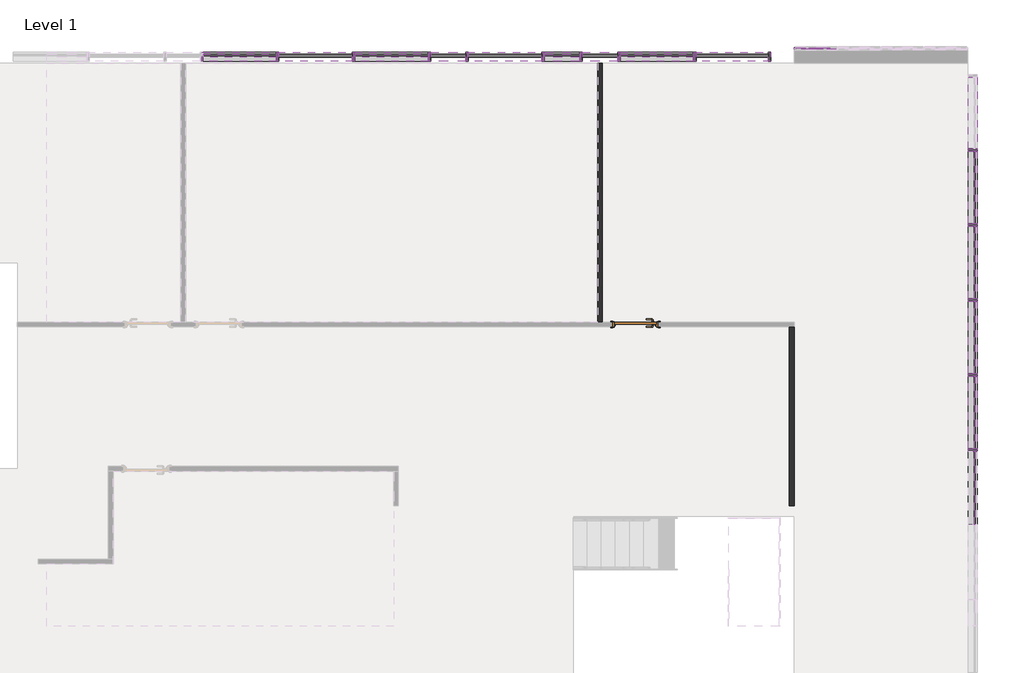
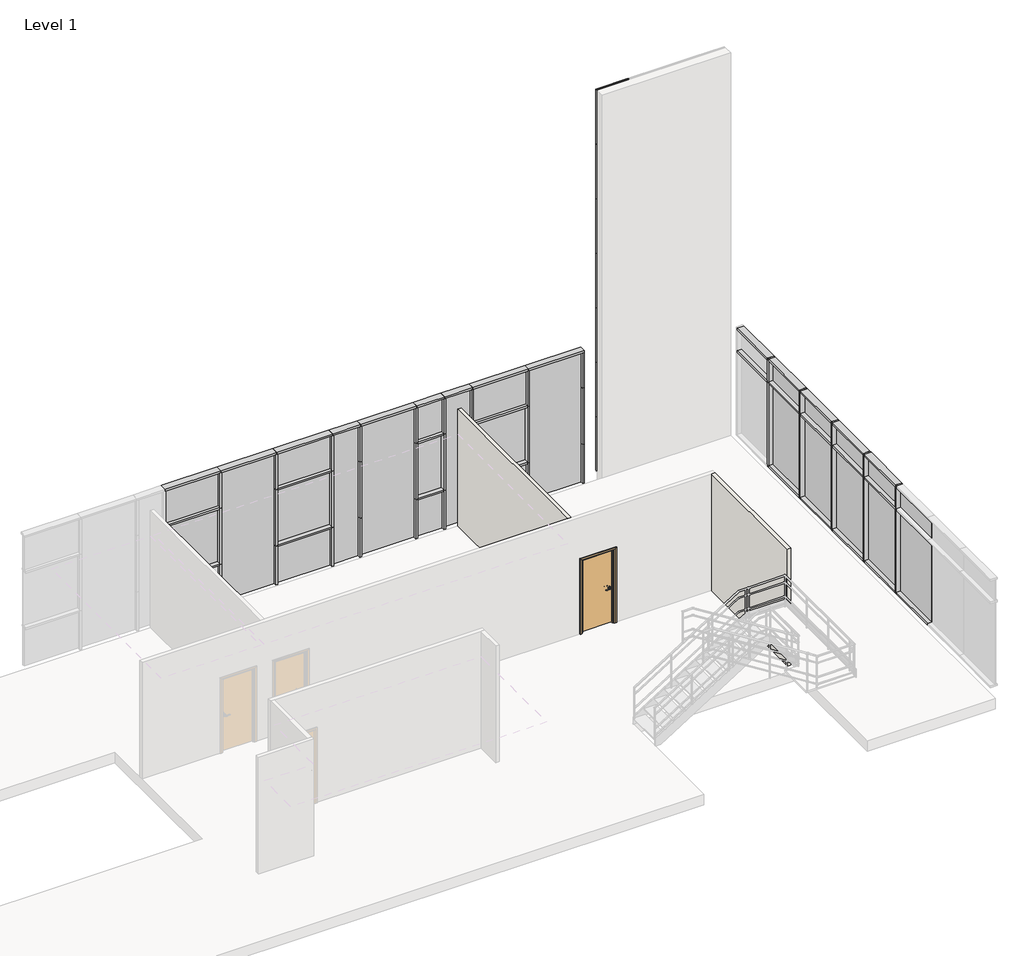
# One storey, part 6 of 10: 83 members, 26 plates, 2 walls, 1 door.
"""IFC4 building model written with IfcOpenShell, lengths in millimetres."""

from ifc_helpers import new_model, si_unit, frame, origin, place, context, project, spatial, polyline, outline, extrude, transform, mapped, element, save
from components import doors_intsgl_1_910x2110mm_ba118736, rectangular_mullion_25x25mm_154c87ff, rectangular_mullion_25x25mm_39486c0a, rectangular_mullion_25x25mm_7ca17579, rectangular_mullion_25x25mm_b3a713a3, rectangular_mullion_50x180mm_27940352, rectangular_mullion_50x180mm_f781141c, rectangular_mullion_50x180mm_fd91253e, rectangular_mullion_50x180mm_cfc9efda, rectangular_mullion_50x180mm_c30fec06, rectangular_mullion_50x180mm_55b63a96, rectangular_mullion_50x180mm_95299f7d, rectangular_mullion_50x180mm_7153291d, rectangular_mullion_50x180mm_f19e9633, rectangular_mullion_50x180mm_b6846536, rectangular_mullion_50x180mm_cd79a6a2, rectangular_mullion_50x180mm_1be9a22b, rectangular_mullion_50x180mm_9c6cddf7, rectangular_mullion_50x180mm_ee9895d7, rectangular_mullion_50x180mm_6af64579, rectangular_mullion_50x180mm_418feb2d, rectangular_mullion_50x180mm_827d9562, system_panel_black_panel_9e4711d2, system_panel_dark_grey_panel_d75652f0, system_panel_dark_grey_panel_1d6e0621, system_panel_glazed_dd63f223, system_panel_glazed_4915e1a0, system_panel_glazed_7f1c0332, system_panel_glazed_28d323ef, system_panel_glazed_53acddae, system_panel_glazed_79299351, system_panel_white_panel_6a64f577, system_panel_white_panel_a9ca731a, system_panel_white_panel_6c6c8c82, system_panel_white_panel_ff540c20

model = new_model("IFC4")

# Units and contexts
model_context = context("Model", 3, world=origin())
ifc_project = project(units=[si_unit("LENGTHUNIT", "METRE", prefix="MILLI")], contexts=[model_context])

# Site, building, storey
site = spatial("IfcSite", under=ifc_project)
building = spatial("IfcBuilding", under=site)
storey = spatial("IfcBuildingStorey", under=building, Name="Level 1", Elevation=3750.0)

# Door
placement = place(None, origin())
doors_intsgl_1_910x2110mm_shape = doors_intsgl_1_910x2110mm_ba118736(model_context)
element("IfcDoor", 1, ObjectType="Doors_IntSgl_1 : 910x2110mm", at=placement, inside=storey, context=model_context, shape_type="MappedRepresentation", body=[
    mapped(doors_intsgl_1_910x2110mm_shape, transform((36520.7942367, 3837.3025486, 3750.0), x_axis=(-1.0, 0.0, 0.0), y_axis=(0.0, -1.0, 0.0), z_axis=(0.0, 0.0, 1.0))),
])

# Members
rectangular_mullion_25x25mm_shape = rectangular_mullion_25x25mm_154c87ff(model_context)
element("IfcMember", 2, ObjectType="Rectangular Mullion : 25x25mm", at=placement, inside=storey, context=model_context, shape_type="MappedRepresentation", body=[
    mapped(rectangular_mullion_25x25mm_shape, transform((39655.7942367, 9282.4946591, 3775.0), x_axis=(-1.0, 0.0, 0.0), y_axis=(0.0, 1.0, 0.0), z_axis=(0.0, 0.0, -1.0))),
])
rectangular_mullion_25x25mm_2_shape = rectangular_mullion_25x25mm_39486c0a(model_context)
element("IfcMember", 3, ObjectType="Rectangular Mullion : 25x25mm", at=placement, inside=storey, context=model_context, shape_type="MappedRepresentation", body=[
    mapped(rectangular_mullion_25x25mm_2_shape, transform((39655.7942367, 9282.4946591, 5308.9285714), x_axis=(-1.0, 0.0, 0.0), y_axis=(0.0, 1.0, 0.0), z_axis=(0.0, 0.0, -1.0))),
])
element("IfcMember", 4, ObjectType="Rectangular Mullion : 25x25mm", at=placement, inside=storey, context=model_context, shape_type="MappedRepresentation", body=[
    mapped(rectangular_mullion_25x25mm_2_shape, transform((39655.7942367, 9282.4946591, 6855.3571429), x_axis=(-1.0, 0.0, 0.0), y_axis=(0.0, 1.0, 0.0), z_axis=(0.0, 0.0, -1.0))),
])
element("IfcMember", 5, ObjectType="Rectangular Mullion : 25x25mm", at=placement, inside=storey, context=model_context, shape_type="MappedRepresentation", body=[
    mapped(rectangular_mullion_25x25mm_2_shape, transform((39655.7942367, 9282.4946591, 8401.7857143), x_axis=(-1.0, 0.0, 0.0), y_axis=(0.0, 1.0, 0.0), z_axis=(0.0, 0.0, -1.0))),
])
element("IfcMember", 6, ObjectType="Rectangular Mullion : 25x25mm", at=placement, inside=storey, context=model_context, shape_type="MappedRepresentation", body=[
    mapped(rectangular_mullion_25x25mm_2_shape, transform((39655.7942367, 9282.4946591, 9948.2142857), x_axis=(-1.0, 0.0, 0.0), y_axis=(0.0, 1.0, 0.0), z_axis=(0.0, 0.0, -1.0))),
])
element("IfcMember", 7, ObjectType="Rectangular Mullion : 25x25mm", at=placement, inside=storey, context=model_context, shape_type="MappedRepresentation", body=[
    mapped(rectangular_mullion_25x25mm_2_shape, transform((39655.7942367, 9282.4946591, 11494.6428571), x_axis=(-1.0, 0.0, 0.0), y_axis=(0.0, 1.0, 0.0), z_axis=(0.0, 0.0, -1.0))),
])
element("IfcMember", 8, ObjectType="Rectangular Mullion : 25x25mm", at=placement, inside=storey, context=model_context, shape_type="MappedRepresentation", body=[
    mapped(rectangular_mullion_25x25mm_shape, transform((39655.7942367, 9282.4946591, 13041.0714286), x_axis=(-1.0, 0.0, 0.0), y_axis=(0.0, 1.0, 0.0), z_axis=(0.0, 0.0, -1.0))),
])
rectangular_mullion_25x25mm_3_shape = rectangular_mullion_25x25mm_7ca17579(model_context)
element("IfcMember", 9, ObjectType="Rectangular Mullion : 25x25mm", at=placement, inside=storey, context=model_context, shape_type="MappedRepresentation", body=[
    mapped(rectangular_mullion_25x25mm_3_shape, transform((39655.7942367, 9282.4946591, 14600.0), x_axis=(0.0, 0.0, 1.0), y_axis=(0.0, 1.0, 0.0), z_axis=(-1.0, 0.0, 0.0))),
])
rectangular_mullion_25x25mm_4_shape = rectangular_mullion_25x25mm_b3a713a3(model_context)
element("IfcMember", 10, ObjectType="Rectangular Mullion : 25x25mm", at=placement, inside=storey, context=model_context, shape_type="MappedRepresentation", body=[
    mapped(rectangular_mullion_25x25mm_4_shape, transform((39680.7942367, 9282.4946591, 5308.9285714), x_axis=(0.0, 0.0, 1.0), y_axis=(0.0, 1.0, 0.0), z_axis=(-1.0, 0.0, 0.0))),
])
element("IfcMember", 11, ObjectType="Rectangular Mullion : 25x25mm", at=placement, inside=storey, context=model_context, shape_type="MappedRepresentation", body=[
    mapped(rectangular_mullion_25x25mm_4_shape, transform((39680.7942367, 9282.4946591, 6855.3571429), x_axis=(0.0, 0.0, 1.0), y_axis=(0.0, 1.0, 0.0), z_axis=(-1.0, 0.0, 0.0))),
])
element("IfcMember", 12, ObjectType="Rectangular Mullion : 25x25mm", at=placement, inside=storey, context=model_context, shape_type="MappedRepresentation", body=[
    mapped(rectangular_mullion_25x25mm_4_shape, transform((39680.7942367, 9282.4946591, 8401.7857143), x_axis=(0.0, 0.0, 1.0), y_axis=(0.0, 1.0, 0.0), z_axis=(-1.0, 0.0, 0.0))),
])
element("IfcMember", 13, ObjectType="Rectangular Mullion : 25x25mm", at=placement, inside=storey, context=model_context, shape_type="MappedRepresentation", body=[
    mapped(rectangular_mullion_25x25mm_4_shape, transform((39680.7942367, 9282.4946591, 9948.2142857), x_axis=(0.0, 0.0, 1.0), y_axis=(0.0, 1.0, 0.0), z_axis=(-1.0, 0.0, 0.0))),
])
element("IfcMember", 14, ObjectType="Rectangular Mullion : 25x25mm", at=placement, inside=storey, context=model_context, shape_type="MappedRepresentation", body=[
    mapped(rectangular_mullion_25x25mm_4_shape, transform((39680.7942367, 9282.4946591, 11494.6428571), x_axis=(0.0, 0.0, 1.0), y_axis=(0.0, 1.0, 0.0), z_axis=(-1.0, 0.0, 0.0))),
])
element("IfcMember", 15, ObjectType="Rectangular Mullion : 25x25mm", at=placement, inside=storey, context=model_context, shape_type="MappedRepresentation", body=[
    mapped(rectangular_mullion_25x25mm_4_shape, transform((39680.7942367, 9282.4946591, 13041.0714286), x_axis=(0.0, 0.0, 1.0), y_axis=(0.0, 1.0, 0.0), z_axis=(-1.0, 0.0, 0.0))),
])
rectangular_mullion_50x180mm_shape = rectangular_mullion_50x180mm_27940352(model_context)
element("IfcMember", 16, ObjectType="Rectangular Mullion : 50x180mm", at=placement, inside=storey, context=model_context, shape_type="MappedRepresentation", body=[
    mapped(rectangular_mullion_50x180mm_shape, transform((37693.2942367, 9132.4946591, 3750.0), x_axis=(1.0, 0.0, 0.0), y_axis=(0.0, -1.0, 0.0), z_axis=(0.0, 0.0, -1.0))),
])
element("IfcMember", 17, ObjectType="Rectangular Mullion : 50x180mm", at=placement, inside=storey, context=model_context, shape_type="MappedRepresentation", body=[
    mapped(rectangular_mullion_50x180mm_shape, transform((36193.2942367, 9132.4946591, 3750.0), x_axis=(1.0, 0.0, 0.0), y_axis=(0.0, -1.0, 0.0), z_axis=(0.0, 0.0, -1.0))),
])
element("IfcMember", 18, ObjectType="Rectangular Mullion : 50x180mm", at=placement, inside=storey, context=model_context, shape_type="MappedRepresentation", body=[
    mapped(rectangular_mullion_50x180mm_shape, transform((35443.2942367, 9132.4946591, 3750.0), x_axis=(1.0, 0.0, 0.0), y_axis=(0.0, -1.0, 0.0), z_axis=(0.0, 0.0, -1.0))),
])
element("IfcMember", 19, ObjectType="Rectangular Mullion : 50x180mm", at=placement, inside=storey, context=model_context, shape_type="MappedRepresentation", body=[
    mapped(rectangular_mullion_50x180mm_shape, transform((34693.2942367, 9132.4946591, 3750.0), x_axis=(1.0, 0.0, 0.0), y_axis=(0.0, -1.0, 0.0), z_axis=(0.0, 0.0, -1.0))),
])
element("IfcMember", 20, ObjectType="Rectangular Mullion : 50x180mm", at=placement, inside=storey, context=model_context, shape_type="MappedRepresentation", body=[
    mapped(rectangular_mullion_50x180mm_shape, transform((32443.2942367, 9132.4946591, 3750.0), x_axis=(1.0, 0.0, 0.0), y_axis=(0.0, -1.0, 0.0), z_axis=(0.0, 0.0, -1.0))),
])
element("IfcMember", 21, ObjectType="Rectangular Mullion : 50x180mm", at=placement, inside=storey, context=model_context, shape_type="MappedRepresentation", body=[
    mapped(rectangular_mullion_50x180mm_shape, transform((30943.2942367, 9132.4946591, 3750.0), x_axis=(1.0, 0.0, 0.0), y_axis=(0.0, -1.0, 0.0), z_axis=(0.0, 0.0, -1.0))),
])
element("IfcMember", 22, ObjectType="Rectangular Mullion : 50x180mm", at=placement, inside=storey, context=model_context, shape_type="MappedRepresentation", body=[
    mapped(rectangular_mullion_50x180mm_shape, transform((29443.2942367, 9132.4946591, 3750.0), x_axis=(1.0, 0.0, 0.0), y_axis=(0.0, -1.0, 0.0), z_axis=(0.0, 0.0, -1.0))),
])
element("IfcMember", 23, ObjectType="Rectangular Mullion : 50x180mm", at=placement, inside=storey, context=model_context, shape_type="MappedRepresentation", body=[
    mapped(rectangular_mullion_50x180mm_shape, transform((33193.2942367, 9132.4946591, 3750.0), x_axis=(1.0, 0.0, 0.0), y_axis=(0.0, -1.0, 0.0), z_axis=(0.0, 0.0, -1.0))),
])
rectangular_mullion_50x180mm_2_shape = rectangular_mullion_50x180mm_f781141c(model_context)
element("IfcMember", 24, ObjectType="Rectangular Mullion : 50x180mm", at=placement, inside=storey, context=model_context, shape_type="MappedRepresentation", body=[
    mapped(rectangular_mullion_50x180mm_2_shape, transform((29443.2942367, 9132.4946591, 4850.0), x_axis=(1.0, 0.0, 0.0), y_axis=(0.0, -1.0, 0.0), z_axis=(0.0, 0.0, -1.0))),
])
element("IfcMember", 25, ObjectType="Rectangular Mullion : 50x180mm", at=placement, inside=storey, context=model_context, shape_type="MappedRepresentation", body=[
    mapped(rectangular_mullion_50x180mm_2_shape, transform((30943.2942367, 9132.4946591, 4850.0), x_axis=(1.0, 0.0, 0.0), y_axis=(0.0, -1.0, 0.0), z_axis=(0.0, 0.0, -1.0))),
])
element("IfcMember", 26, ObjectType="Rectangular Mullion : 50x180mm", at=placement, inside=storey, context=model_context, shape_type="MappedRepresentation", body=[
    mapped(rectangular_mullion_50x180mm_2_shape, transform((32443.2942367, 9132.4946591, 4850.0), x_axis=(1.0, 0.0, 0.0), y_axis=(0.0, -1.0, 0.0), z_axis=(0.0, 0.0, -1.0))),
])
element("IfcMember", 27, ObjectType="Rectangular Mullion : 50x180mm", at=placement, inside=storey, context=model_context, shape_type="MappedRepresentation", body=[
    mapped(rectangular_mullion_50x180mm_2_shape, transform((34693.2942367, 9132.4946591, 4850.0), x_axis=(1.0, 0.0, 0.0), y_axis=(0.0, -1.0, 0.0), z_axis=(0.0, 0.0, -1.0))),
])
element("IfcMember", 28, ObjectType="Rectangular Mullion : 50x180mm", at=placement, inside=storey, context=model_context, shape_type="MappedRepresentation", body=[
    mapped(rectangular_mullion_50x180mm_2_shape, transform((35443.2942367, 9132.4946591, 4850.0), x_axis=(1.0, 0.0, 0.0), y_axis=(0.0, -1.0, 0.0), z_axis=(0.0, 0.0, -1.0))),
])
element("IfcMember", 29, ObjectType="Rectangular Mullion : 50x180mm", at=placement, inside=storey, context=model_context, shape_type="MappedRepresentation", body=[
    mapped(rectangular_mullion_50x180mm_2_shape, transform((36193.2942367, 9132.4946591, 4850.0), x_axis=(1.0, 0.0, 0.0), y_axis=(0.0, -1.0, 0.0), z_axis=(0.0, 0.0, -1.0))),
])
element("IfcMember", 30, ObjectType="Rectangular Mullion : 50x180mm", at=placement, inside=storey, context=model_context, shape_type="MappedRepresentation", body=[
    mapped(rectangular_mullion_50x180mm_2_shape, transform((37693.2942367, 9132.4946591, 4850.0), x_axis=(1.0, 0.0, 0.0), y_axis=(0.0, -1.0, 0.0), z_axis=(0.0, 0.0, -1.0))),
])
element("IfcMember", 31, ObjectType="Rectangular Mullion : 50x180mm", at=placement, inside=storey, context=model_context, shape_type="MappedRepresentation", body=[
    mapped(rectangular_mullion_50x180mm_2_shape, transform((33193.2942367, 9132.4946591, 4850.0), x_axis=(1.0, 0.0, 0.0), y_axis=(0.0, -1.0, 0.0), z_axis=(0.0, 0.0, -1.0))),
])
rectangular_mullion_50x180mm_3_shape = rectangular_mullion_50x180mm_fd91253e(model_context)
element("IfcMember", 32, ObjectType="Rectangular Mullion : 50x180mm", at=placement, inside=storey, context=model_context, shape_type="MappedRepresentation", body=[
    mapped(rectangular_mullion_50x180mm_3_shape, transform((37668.2942367, 9132.4946591, 4850.0), x_axis=(0.0, 0.0, 1.0), y_axis=(0.0, -1.0, 0.0), z_axis=(1.0, 0.0, 0.0))),
])
element("IfcMember", 33, ObjectType="Rectangular Mullion : 50x180mm", at=placement, inside=storey, context=model_context, shape_type="MappedRepresentation", body=[
    mapped(rectangular_mullion_50x180mm_3_shape, transform((37668.2942367, 9132.4946591, 6450.0), x_axis=(0.0, 0.0, 1.0), y_axis=(0.0, -1.0, 0.0), z_axis=(1.0, 0.0, 0.0))),
])
element("IfcMember", 34, ObjectType="Rectangular Mullion : 50x180mm", at=placement, inside=storey, context=model_context, shape_type="MappedRepresentation", body=[
    mapped(rectangular_mullion_50x180mm_3_shape, transform((29418.2942367, 9132.4946591, 4850.0), x_axis=(0.0, 0.0, 1.0), y_axis=(0.0, -1.0, 0.0), z_axis=(1.0, 0.0, 0.0))),
])
element("IfcMember", 35, ObjectType="Rectangular Mullion : 50x180mm", at=placement, inside=storey, context=model_context, shape_type="MappedRepresentation", body=[
    mapped(rectangular_mullion_50x180mm_3_shape, transform((32418.2942367, 9132.4946591, 4850.0), x_axis=(0.0, 0.0, 1.0), y_axis=(0.0, -1.0, 0.0), z_axis=(1.0, 0.0, 0.0))),
])
element("IfcMember", 36, ObjectType="Rectangular Mullion : 50x180mm", at=placement, inside=storey, context=model_context, shape_type="MappedRepresentation", body=[
    mapped(rectangular_mullion_50x180mm_3_shape, transform((29418.2942367, 9132.4946591, 6450.0), x_axis=(0.0, 0.0, 1.0), y_axis=(0.0, -1.0, 0.0), z_axis=(1.0, 0.0, 0.0))),
])
element("IfcMember", 37, ObjectType="Rectangular Mullion : 50x180mm", at=placement, inside=storey, context=model_context, shape_type="MappedRepresentation", body=[
    mapped(rectangular_mullion_50x180mm_3_shape, transform((32418.2942367, 9132.4946591, 6450.0), x_axis=(0.0, 0.0, 1.0), y_axis=(0.0, -1.0, 0.0), z_axis=(1.0, 0.0, 0.0))),
])
rectangular_mullion_50x180mm_4_shape = rectangular_mullion_50x180mm_cfc9efda(model_context)
element("IfcMember", 38, ObjectType="Rectangular Mullion : 50x180mm", at=placement, inside=storey, context=model_context, shape_type="MappedRepresentation", body=[
    mapped(rectangular_mullion_50x180mm_4_shape, transform((35418.2942367, 9132.4946591, 6450.0), x_axis=(0.0, 0.0, 1.0), y_axis=(0.0, -1.0, 0.0), z_axis=(1.0, 0.0, 0.0))),
])
element("IfcMember", 39, ObjectType="Rectangular Mullion : 50x180mm", at=placement, inside=storey, context=model_context, shape_type="MappedRepresentation", body=[
    mapped(rectangular_mullion_50x180mm_4_shape, transform((35418.2942367, 9132.4946591, 4850.0), x_axis=(0.0, 0.0, 1.0), y_axis=(0.0, -1.0, 0.0), z_axis=(1.0, 0.0, 0.0))),
])
rectangular_mullion_50x180mm_5_shape = rectangular_mullion_50x180mm_c30fec06(model_context)
element("IfcMember", 40, ObjectType="Rectangular Mullion : 50x180mm", at=placement, inside=storey, context=model_context, shape_type="MappedRepresentation", body=[
    mapped(rectangular_mullion_50x180mm_5_shape, transform((29443.2942367, 9132.4946591, 7500.0), x_axis=(0.0, 0.0, 1.0), y_axis=(0.0, -1.0, 0.0), z_axis=(1.0, 0.0, 0.0))),
])
element("IfcMember", 41, ObjectType="Rectangular Mullion : 50x180mm", at=placement, inside=storey, context=model_context, shape_type="MappedRepresentation", body=[
    mapped(rectangular_mullion_50x180mm_5_shape, transform((30943.2942367, 9132.4946591, 7500.0), x_axis=(0.0, 0.0, 1.0), y_axis=(0.0, -1.0, 0.0), z_axis=(1.0, 0.0, 0.0))),
])
element("IfcMember", 42, ObjectType="Rectangular Mullion : 50x180mm", at=placement, inside=storey, context=model_context, shape_type="MappedRepresentation", body=[
    mapped(rectangular_mullion_50x180mm_5_shape, transform((32443.2942367, 9132.4946591, 7500.0), x_axis=(0.0, 0.0, 1.0), y_axis=(0.0, -1.0, 0.0), z_axis=(1.0, 0.0, 0.0))),
])
element("IfcMember", 43, ObjectType="Rectangular Mullion : 50x180mm", at=placement, inside=storey, context=model_context, shape_type="MappedRepresentation", body=[
    mapped(rectangular_mullion_50x180mm_5_shape, transform((34693.2942367, 9132.4946591, 7500.0), x_axis=(0.0, 0.0, 1.0), y_axis=(0.0, -1.0, 0.0), z_axis=(1.0, 0.0, 0.0))),
])
element("IfcMember", 44, ObjectType="Rectangular Mullion : 50x180mm", at=placement, inside=storey, context=model_context, shape_type="MappedRepresentation", body=[
    mapped(rectangular_mullion_50x180mm_5_shape, transform((37693.2942367, 9132.4946591, 7500.0), x_axis=(0.0, 0.0, 1.0), y_axis=(0.0, -1.0, 0.0), z_axis=(1.0, 0.0, 0.0))),
])
rectangular_mullion_50x180mm_6_shape = rectangular_mullion_50x180mm_55b63a96(model_context)
element("IfcMember", 45, ObjectType="Rectangular Mullion : 50x180mm", at=placement, inside=storey, context=model_context, shape_type="MappedRepresentation", body=[
    mapped(rectangular_mullion_50x180mm_6_shape, transform((33193.2942367, 9132.4946591, 7500.0), x_axis=(0.0, 0.0, 1.0), y_axis=(0.0, -1.0, 0.0), z_axis=(1.0, 0.0, 0.0))),
])
element("IfcMember", 46, ObjectType="Rectangular Mullion : 50x180mm", at=placement, inside=storey, context=model_context, shape_type="MappedRepresentation", body=[
    mapped(rectangular_mullion_50x180mm_6_shape, transform((35443.2942367, 9132.4946591, 7500.0), x_axis=(0.0, 0.0, 1.0), y_axis=(0.0, -1.0, 0.0), z_axis=(1.0, 0.0, 0.0))),
])
element("IfcMember", 47, ObjectType="Rectangular Mullion : 50x180mm", at=placement, inside=storey, context=model_context, shape_type="MappedRepresentation", body=[
    mapped(rectangular_mullion_50x180mm_6_shape, transform((36193.2942367, 9132.4946591, 7500.0), x_axis=(0.0, 0.0, 1.0), y_axis=(0.0, -1.0, 0.0), z_axis=(1.0, 0.0, 0.0))),
])
element("IfcMember", 48, ObjectType="Rectangular Mullion : 50x180mm", at=placement, inside=storey, context=model_context, shape_type="MappedRepresentation", body=[
    mapped(rectangular_mullion_50x180mm_5_shape, transform((39193.2942367, 9132.4946591, 7500.0), x_axis=(0.0, 0.0, 1.0), y_axis=(0.0, -1.0, 0.0), z_axis=(1.0, 0.0, 0.0))),
])
rectangular_mullion_50x180mm_7_shape = rectangular_mullion_50x180mm_95299f7d(model_context)
element("IfcMember", 49, ObjectType="Rectangular Mullion : 50x180mm", at=placement, inside=storey, context=model_context, shape_type="MappedRepresentation", body=[
    mapped(rectangular_mullion_50x180mm_7_shape, transform((39193.2942367, 9132.4946591, 4850.0), x_axis=(1.0, 0.0, 0.0), y_axis=(0.0, -1.0, 0.0), z_axis=(0.0, 0.0, -1.0))),
])
rectangular_mullion_50x180mm_8_shape = rectangular_mullion_50x180mm_7153291d(model_context)
element("IfcMember", 50, ObjectType="Rectangular Mullion : 50x180mm", at=placement, inside=storey, context=model_context, shape_type="MappedRepresentation", body=[
    mapped(rectangular_mullion_50x180mm_8_shape, transform((39193.2942367, 9132.4946591, 3750.0), x_axis=(1.0, 0.0, 0.0), y_axis=(0.0, -1.0, 0.0), z_axis=(0.0, 0.0, -1.0))),
])
rectangular_mullion_50x180mm_9_shape = rectangular_mullion_50x180mm_f19e9633(model_context)
element("IfcMember", 51, ObjectType="Rectangular Mullion : 50x180mm", at=placement, inside=storey, context=model_context, shape_type="MappedRepresentation", body=[
    mapped(rectangular_mullion_50x180mm_9_shape, transform((34693.2942367, 9132.4946591, 6450.0), x_axis=(1.0, 0.0, 0.0), y_axis=(0.0, -1.0, 0.0), z_axis=(0.0, 0.0, -1.0))),
])
element("IfcMember", 52, ObjectType="Rectangular Mullion : 50x180mm", at=placement, inside=storey, context=model_context, shape_type="MappedRepresentation", body=[
    mapped(rectangular_mullion_50x180mm_9_shape, transform((35443.2942367, 9132.4946591, 6450.0), x_axis=(1.0, 0.0, 0.0), y_axis=(0.0, -1.0, 0.0), z_axis=(0.0, 0.0, -1.0))),
])
element("IfcMember", 53, ObjectType="Rectangular Mullion : 50x180mm", at=placement, inside=storey, context=model_context, shape_type="MappedRepresentation", body=[
    mapped(rectangular_mullion_50x180mm_9_shape, transform((36193.2942367, 9132.4946591, 6450.0), x_axis=(1.0, 0.0, 0.0), y_axis=(0.0, -1.0, 0.0), z_axis=(0.0, 0.0, -1.0))),
])
element("IfcMember", 54, ObjectType="Rectangular Mullion : 50x180mm", at=placement, inside=storey, context=model_context, shape_type="MappedRepresentation", body=[
    mapped(rectangular_mullion_50x180mm_9_shape, transform((37693.2942367, 9132.4946591, 6450.0), x_axis=(1.0, 0.0, 0.0), y_axis=(0.0, -1.0, 0.0), z_axis=(0.0, 0.0, -1.0))),
])
element("IfcMember", 55, ObjectType="Rectangular Mullion : 50x180mm", at=placement, inside=storey, context=model_context, shape_type="MappedRepresentation", body=[
    mapped(rectangular_mullion_50x180mm_9_shape, transform((32443.2942367, 9132.4946591, 6450.0), x_axis=(1.0, 0.0, 0.0), y_axis=(0.0, -1.0, 0.0), z_axis=(0.0, 0.0, -1.0))),
])
element("IfcMember", 56, ObjectType="Rectangular Mullion : 50x180mm", at=placement, inside=storey, context=model_context, shape_type="MappedRepresentation", body=[
    mapped(rectangular_mullion_50x180mm_9_shape, transform((30943.2942367, 9132.4946591, 6450.0), x_axis=(1.0, 0.0, 0.0), y_axis=(0.0, -1.0, 0.0), z_axis=(0.0, 0.0, -1.0))),
])
element("IfcMember", 57, ObjectType="Rectangular Mullion : 50x180mm", at=placement, inside=storey, context=model_context, shape_type="MappedRepresentation", body=[
    mapped(rectangular_mullion_50x180mm_9_shape, transform((29443.2942367, 9132.4946591, 6450.0), x_axis=(1.0, 0.0, 0.0), y_axis=(0.0, -1.0, 0.0), z_axis=(0.0, 0.0, -1.0))),
])
element("IfcMember", 58, ObjectType="Rectangular Mullion : 50x180mm", at=placement, inside=storey, context=model_context, shape_type="MappedRepresentation", body=[
    mapped(rectangular_mullion_50x180mm_9_shape, transform((33193.2942367, 9132.4946591, 6450.0), x_axis=(1.0, 0.0, 0.0), y_axis=(0.0, -1.0, 0.0), z_axis=(0.0, 0.0, -1.0))),
])
rectangular_mullion_50x180mm_10_shape = rectangular_mullion_50x180mm_b6846536(model_context)
element("IfcMember", 59, ObjectType="Rectangular Mullion : 50x180mm", at=placement, inside=storey, context=model_context, shape_type="MappedRepresentation", body=[
    mapped(rectangular_mullion_50x180mm_10_shape, transform((39193.2942367, 9132.4946591, 6450.0), x_axis=(1.0, 0.0, 0.0), y_axis=(0.0, -1.0, 0.0), z_axis=(0.0, 0.0, -1.0))),
])
rectangular_mullion_50x180mm_11_shape = rectangular_mullion_50x180mm_cd79a6a2(model_context)
element("IfcMember", 60, ObjectType="Rectangular Mullion : 50x180mm", at=placement, inside=storey, context=model_context, shape_type="MappedRepresentation", body=[
    mapped(rectangular_mullion_50x180mm_11_shape, transform((43193.2942367, 7289.6821589, 3900.0), x_axis=(0.0, -1.0, 0.0), y_axis=(-1.0, 0.0, 0.0), z_axis=(0.0, 0.0, -1.0))),
])
element("IfcMember", 61, ObjectType="Rectangular Mullion : 50x180mm", at=placement, inside=storey, context=model_context, shape_type="MappedRepresentation", body=[
    mapped(rectangular_mullion_50x180mm_11_shape, transform((43193.2942367, 5806.869659, 3900.0), x_axis=(0.0, -1.0, 0.0), y_axis=(-1.0, 0.0, 0.0), z_axis=(0.0, 0.0, -1.0))),
])
element("IfcMember", 62, ObjectType="Rectangular Mullion : 50x180mm", at=placement, inside=storey, context=model_context, shape_type="MappedRepresentation", body=[
    mapped(rectangular_mullion_50x180mm_11_shape, transform((43193.2942367, 4324.0571591, 3900.0), x_axis=(0.0, -1.0, 0.0), y_axis=(-1.0, 0.0, 0.0), z_axis=(0.0, 0.0, -1.0))),
])
element("IfcMember", 63, ObjectType="Rectangular Mullion : 50x180mm", at=placement, inside=storey, context=model_context, shape_type="MappedRepresentation", body=[
    mapped(rectangular_mullion_50x180mm_11_shape, transform((43193.2942367, 2841.2446591, 3900.0), x_axis=(0.0, -1.0, 0.0), y_axis=(-1.0, 0.0, 0.0), z_axis=(0.0, 0.0, -1.0))),
])
element("IfcMember", 64, ObjectType="Rectangular Mullion : 50x180mm", at=placement, inside=storey, context=model_context, shape_type="MappedRepresentation", body=[
    mapped(rectangular_mullion_50x180mm_11_shape, transform((43193.2942367, 1358.4321592, 3900.0), x_axis=(0.0, -1.0, 0.0), y_axis=(-1.0, 0.0, 0.0), z_axis=(0.0, 0.0, -1.0))),
])
rectangular_mullion_50x180mm_12_shape = rectangular_mullion_50x180mm_1be9a22b(model_context)
element("IfcMember", 65, ObjectType="Rectangular Mullion : 50x180mm", at=placement, inside=storey, context=model_context, shape_type="MappedRepresentation", body=[
    mapped(rectangular_mullion_50x180mm_12_shape, transform((43193.2942367, 7314.6821589, 6965.0), x_axis=(0.0, 0.0, 1.0), y_axis=(-1.0, 0.0, 0.0), z_axis=(0.0, -1.0, 0.0))),
])
rectangular_mullion_50x180mm_13_shape = rectangular_mullion_50x180mm_9c6cddf7(model_context)
element("IfcMember", 66, ObjectType="Rectangular Mullion : 50x180mm", at=placement, inside=storey, context=model_context, shape_type="MappedRepresentation", body=[
    mapped(rectangular_mullion_50x180mm_13_shape, transform((43193.2942367, 5831.869659, 6965.0), x_axis=(0.0, 0.0, 1.0), y_axis=(-1.0, 0.0, 0.0), z_axis=(0.0, -1.0, 0.0))),
])
element("IfcMember", 67, ObjectType="Rectangular Mullion : 50x180mm", at=placement, inside=storey, context=model_context, shape_type="MappedRepresentation", body=[
    mapped(rectangular_mullion_50x180mm_13_shape, transform((43193.2942367, 4349.0571591, 6965.0), x_axis=(0.0, 0.0, 1.0), y_axis=(-1.0, 0.0, 0.0), z_axis=(0.0, -1.0, 0.0))),
])
element("IfcMember", 68, ObjectType="Rectangular Mullion : 50x180mm", at=placement, inside=storey, context=model_context, shape_type="MappedRepresentation", body=[
    mapped(rectangular_mullion_50x180mm_13_shape, transform((43193.2942367, 2866.2446591, 6965.0), x_axis=(0.0, 0.0, 1.0), y_axis=(-1.0, 0.0, 0.0), z_axis=(0.0, -1.0, 0.0))),
])
element("IfcMember", 69, ObjectType="Rectangular Mullion : 50x180mm", at=placement, inside=storey, context=model_context, shape_type="MappedRepresentation", body=[
    mapped(rectangular_mullion_50x180mm_13_shape, transform((43193.2942367, 1383.4321592, 6965.0), x_axis=(0.0, 0.0, 1.0), y_axis=(-1.0, 0.0, 0.0), z_axis=(0.0, -1.0, 0.0))),
])
element("IfcMember", 70, ObjectType="Rectangular Mullion : 50x180mm", at=placement, inside=storey, context=model_context, shape_type="MappedRepresentation", body=[
    mapped(rectangular_mullion_50x180mm_13_shape, transform((43193.2942367, 7264.6821589, 3900.0), x_axis=(0.0, 0.0, -1.0), y_axis=(-1.0, 0.0, 0.0), z_axis=(0.0, 1.0, 0.0))),
])
element("IfcMember", 71, ObjectType="Rectangular Mullion : 50x180mm", at=placement, inside=storey, context=model_context, shape_type="MappedRepresentation", body=[
    mapped(rectangular_mullion_50x180mm_13_shape, transform((43193.2942367, 5781.869659, 3900.0), x_axis=(0.0, 0.0, -1.0), y_axis=(-1.0, 0.0, 0.0), z_axis=(0.0, 1.0, 0.0))),
])
element("IfcMember", 72, ObjectType="Rectangular Mullion : 50x180mm", at=placement, inside=storey, context=model_context, shape_type="MappedRepresentation", body=[
    mapped(rectangular_mullion_50x180mm_13_shape, transform((43193.2942367, 4299.0571591, 3900.0), x_axis=(0.0, 0.0, -1.0), y_axis=(-1.0, 0.0, 0.0), z_axis=(0.0, 1.0, 0.0))),
])
element("IfcMember", 73, ObjectType="Rectangular Mullion : 50x180mm", at=placement, inside=storey, context=model_context, shape_type="MappedRepresentation", body=[
    mapped(rectangular_mullion_50x180mm_13_shape, transform((43193.2942367, 2816.2446591, 3900.0), x_axis=(0.0, 0.0, -1.0), y_axis=(-1.0, 0.0, 0.0), z_axis=(0.0, 1.0, 0.0))),
])
rectangular_mullion_50x180mm_14_shape = rectangular_mullion_50x180mm_ee9895d7(model_context)
element("IfcMember", 74, ObjectType="Rectangular Mullion : 50x180mm", at=placement, inside=storey, context=model_context, shape_type="MappedRepresentation", body=[
    mapped(rectangular_mullion_50x180mm_14_shape, transform((43193.2942367, 1333.4321592, 3900.0), x_axis=(0.0, 0.0, -1.0), y_axis=(-1.0, 0.0, 0.0), z_axis=(0.0, 1.0, 0.0))),
])
rectangular_mullion_50x180mm_15_shape = rectangular_mullion_50x180mm_6af64579(model_context)
element("IfcMember", 75, ObjectType="Rectangular Mullion : 50x180mm", at=placement, inside=storey, context=model_context, shape_type="MappedRepresentation", body=[
    mapped(rectangular_mullion_50x180mm_15_shape, transform((43193.2942367, 7314.6821589, 6300.0), x_axis=(0.0, 0.0, 1.0), y_axis=(-1.0, 0.0, 0.0), z_axis=(0.0, -1.0, 0.0))),
])
rectangular_mullion_50x180mm_16_shape = rectangular_mullion_50x180mm_418feb2d(model_context)
element("IfcMember", 76, ObjectType="Rectangular Mullion : 50x180mm", at=placement, inside=storey, context=model_context, shape_type="MappedRepresentation", body=[
    mapped(rectangular_mullion_50x180mm_16_shape, transform((43193.2942367, 5831.869659, 6300.0), x_axis=(0.0, 0.0, 1.0), y_axis=(-1.0, 0.0, 0.0), z_axis=(0.0, -1.0, 0.0))),
])
element("IfcMember", 77, ObjectType="Rectangular Mullion : 50x180mm", at=placement, inside=storey, context=model_context, shape_type="MappedRepresentation", body=[
    mapped(rectangular_mullion_50x180mm_16_shape, transform((43193.2942367, 4349.0571591, 6300.0), x_axis=(0.0, 0.0, 1.0), y_axis=(-1.0, 0.0, 0.0), z_axis=(0.0, -1.0, 0.0))),
])
element("IfcMember", 78, ObjectType="Rectangular Mullion : 50x180mm", at=placement, inside=storey, context=model_context, shape_type="MappedRepresentation", body=[
    mapped(rectangular_mullion_50x180mm_16_shape, transform((43193.2942367, 2866.2446591, 6300.0), x_axis=(0.0, 0.0, 1.0), y_axis=(-1.0, 0.0, 0.0), z_axis=(0.0, -1.0, 0.0))),
])
element("IfcMember", 79, ObjectType="Rectangular Mullion : 50x180mm", at=placement, inside=storey, context=model_context, shape_type="MappedRepresentation", body=[
    mapped(rectangular_mullion_50x180mm_16_shape, transform((43193.2942367, 1383.4321592, 6300.0), x_axis=(0.0, 0.0, 1.0), y_axis=(-1.0, 0.0, 0.0), z_axis=(0.0, -1.0, 0.0))),
])
rectangular_mullion_50x180mm_17_shape = rectangular_mullion_50x180mm_827d9562(model_context)
element("IfcMember", 80, ObjectType="Rectangular Mullion : 50x180mm", at=placement, inside=storey, context=model_context, shape_type="MappedRepresentation", body=[
    mapped(rectangular_mullion_50x180mm_17_shape, transform((43193.2942367, 7289.6821589, 6300.0), x_axis=(0.0, -1.0, 0.0), y_axis=(-1.0, 0.0, 0.0), z_axis=(0.0, 0.0, -1.0))),
])
element("IfcMember", 81, ObjectType="Rectangular Mullion : 50x180mm", at=placement, inside=storey, context=model_context, shape_type="MappedRepresentation", body=[
    mapped(rectangular_mullion_50x180mm_17_shape, transform((43193.2942367, 5806.869659, 6300.0), x_axis=(0.0, -1.0, 0.0), y_axis=(-1.0, 0.0, 0.0), z_axis=(0.0, 0.0, -1.0))),
])
element("IfcMember", 82, ObjectType="Rectangular Mullion : 50x180mm", at=placement, inside=storey, context=model_context, shape_type="MappedRepresentation", body=[
    mapped(rectangular_mullion_50x180mm_17_shape, transform((43193.2942367, 4324.0571591, 6300.0), x_axis=(0.0, -1.0, 0.0), y_axis=(-1.0, 0.0, 0.0), z_axis=(0.0, 0.0, -1.0))),
])
element("IfcMember", 83, ObjectType="Rectangular Mullion : 50x180mm", at=placement, inside=storey, context=model_context, shape_type="MappedRepresentation", body=[
    mapped(rectangular_mullion_50x180mm_17_shape, transform((43193.2942367, 2841.2446591, 6300.0), x_axis=(0.0, -1.0, 0.0), y_axis=(-1.0, 0.0, 0.0), z_axis=(0.0, 0.0, -1.0))),
])
element("IfcMember", 84, ObjectType="Rectangular Mullion : 50x180mm", at=placement, inside=storey, context=model_context, shape_type="MappedRepresentation", body=[
    mapped(rectangular_mullion_50x180mm_17_shape, transform((43193.2942367, 1358.4321592, 6300.0), x_axis=(0.0, -1.0, 0.0), y_axis=(-1.0, 0.0, 0.0), z_axis=(0.0, 0.0, -1.0))),
])

# Plates
system_panel_black_panel_shape = system_panel_black_panel_9e4711d2(model_context)
element("IfcPlate", 85, ObjectType="System Panel : Black-Panel", at=placement, inside=storey, context=model_context, shape_type="MappedRepresentation", body=[
    mapped(system_panel_black_panel_shape, transform((35818.2942367, 9132.4946591, 3750.0), x_axis=(1.0, 0.0, 0.0), y_axis=(0.0, 1.0, 0.0), z_axis=(0.0, 0.0, 1.0))),
])
element("IfcPlate", 86, ObjectType="System Panel : Black-Panel", at=placement, inside=storey, context=model_context, shape_type="MappedRepresentation", body=[
    mapped(system_panel_black_panel_shape, transform((32818.2942367, 9132.4946591, 3750.0), x_axis=(1.0, 0.0, 0.0), y_axis=(0.0, 1.0, 0.0), z_axis=(0.0, 0.0, 1.0))),
])
system_panel_dark_grey_panel_shape = system_panel_dark_grey_panel_d75652f0(model_context)
element("IfcPlate", 87, ObjectType="System Panel : Dark Grey-Panel", at=placement, inside=storey, context=model_context, shape_type="MappedRepresentation", body=[
    mapped(system_panel_dark_grey_panel_shape, transform((38430.7942367, 9132.4946591, 3750.0), x_axis=(1.0, 0.0, 0.0), y_axis=(0.0, 1.0, 0.0), z_axis=(0.0, 0.0, 1.0))),
])
system_panel_dark_grey_panel_2_shape = system_panel_dark_grey_panel_1d6e0621(model_context)
element("IfcPlate", 88, ObjectType="System Panel : Dark Grey-Panel", at=placement, inside=storey, context=model_context, shape_type="MappedRepresentation", body=[
    mapped(system_panel_dark_grey_panel_2_shape, transform((33943.2942367, 9132.4946591, 3750.0), x_axis=(1.0, 0.0, 0.0), y_axis=(0.0, 1.0, 0.0), z_axis=(0.0, 0.0, 1.0))),
])
element("IfcPlate", 89, ObjectType="System Panel : Dark Grey-Panel", at=placement, inside=storey, context=model_context, shape_type="MappedRepresentation", body=[
    mapped(system_panel_dark_grey_panel_2_shape, transform((30193.2942367, 9132.4946591, 3750.0), x_axis=(1.0, 0.0, 0.0), y_axis=(0.0, 1.0, 0.0), z_axis=(0.0, 0.0, 1.0))),
])
system_panel_glazed_shape = system_panel_glazed_dd63f223(model_context)
element("IfcPlate", 90, ObjectType="System Panel : Glazed", at=placement, inside=storey, context=model_context, shape_type="MappedRepresentation", body=[
    mapped(system_panel_glazed_shape, transform((35068.2942367, 9132.4946591, 4875.0), x_axis=(1.0, 0.0, 0.0), y_axis=(0.0, 1.0, 0.0), z_axis=(0.0, 0.0, 1.0))),
])
system_panel_glazed_2_shape = system_panel_glazed_4915e1a0(model_context)
element("IfcPlate", 91, ObjectType="System Panel : Glazed", at=placement, inside=storey, context=model_context, shape_type="MappedRepresentation", body=[
    mapped(system_panel_glazed_2_shape, transform((36943.2942367, 9132.4946591, 4875.0), x_axis=(1.0, 0.0, 0.0), y_axis=(0.0, 1.0, 0.0), z_axis=(0.0, 0.0, 1.0))),
])
element("IfcPlate", 92, ObjectType="System Panel : Glazed", at=placement, inside=storey, context=model_context, shape_type="MappedRepresentation", body=[
    mapped(system_panel_glazed_2_shape, transform((31693.2942367, 9132.4946591, 4875.0), x_axis=(1.0, 0.0, 0.0), y_axis=(0.0, 1.0, 0.0), z_axis=(0.0, 0.0, 1.0))),
])
element("IfcPlate", 93, ObjectType="System Panel : Glazed", at=placement, inside=storey, context=model_context, shape_type="MappedRepresentation", body=[
    mapped(system_panel_glazed_2_shape, transform((28693.2942367, 9132.4946591, 4875.0), x_axis=(1.0, 0.0, 0.0), y_axis=(0.0, 1.0, 0.0), z_axis=(0.0, 0.0, 1.0))),
])
system_panel_glazed_3_shape = system_panel_glazed_7f1c0332(model_context)
element("IfcPlate", 94, ObjectType="System Panel : Glazed", at=placement, inside=storey, context=model_context, shape_type="MappedRepresentation", body=[
    mapped(system_panel_glazed_3_shape, transform((43193.2942367, 6548.275909, 3950.0), x_axis=(0.0, -1.0, 0.0), y_axis=(1.0, 0.0, 0.0), z_axis=(0.0, 0.0, 1.0))),
])
element("IfcPlate", 95, ObjectType="System Panel : Glazed", at=placement, inside=storey, context=model_context, shape_type="MappedRepresentation", body=[
    mapped(system_panel_glazed_3_shape, transform((43193.2942367, 5065.463409, 3950.0), x_axis=(0.0, -1.0, 0.0), y_axis=(1.0, 0.0, 0.0), z_axis=(0.0, 0.0, 1.0))),
])
element("IfcPlate", 96, ObjectType="System Panel : Glazed", at=placement, inside=storey, context=model_context, shape_type="MappedRepresentation", body=[
    mapped(system_panel_glazed_3_shape, transform((43193.2942367, 3582.6509091, 3950.0), x_axis=(0.0, -1.0, 0.0), y_axis=(1.0, 0.0, 0.0), z_axis=(0.0, 0.0, 1.0))),
])
element("IfcPlate", 97, ObjectType="System Panel : Glazed", at=placement, inside=storey, context=model_context, shape_type="MappedRepresentation", body=[
    mapped(system_panel_glazed_3_shape, transform((43193.2942367, 2099.8384092, 3950.0), x_axis=(0.0, -1.0, 0.0), y_axis=(1.0, 0.0, 0.0), z_axis=(0.0, 0.0, 1.0))),
])
system_panel_glazed_4_shape = system_panel_glazed_28d323ef(model_context)
element("IfcPlate", 98, ObjectType="System Panel : Glazed", at=placement, inside=storey, context=model_context, shape_type="MappedRepresentation", body=[
    mapped(system_panel_glazed_4_shape, transform((43193.2942367, 604.5259093, 3950.0), x_axis=(0.0, -1.0, 0.0), y_axis=(1.0, 0.0, 0.0), z_axis=(0.0, 0.0, 1.0))),
])
system_panel_glazed_5_shape = system_panel_glazed_53acddae(model_context)
element("IfcPlate", 99, ObjectType="System Panel : Glazed", at=placement, inside=storey, context=model_context, shape_type="MappedRepresentation", body=[
    mapped(system_panel_glazed_5_shape, transform((43193.2942367, 6548.275909, 6325.0), x_axis=(0.0, -1.0, 0.0), y_axis=(1.0, 0.0, 0.0), z_axis=(0.0, 0.0, 1.0))),
])
element("IfcPlate", 100, ObjectType="System Panel : Glazed", at=placement, inside=storey, context=model_context, shape_type="MappedRepresentation", body=[
    mapped(system_panel_glazed_5_shape, transform((43193.2942367, 5065.463409, 6325.0), x_axis=(0.0, -1.0, 0.0), y_axis=(1.0, 0.0, 0.0), z_axis=(0.0, 0.0, 1.0))),
])
element("IfcPlate", 101, ObjectType="System Panel : Glazed", at=placement, inside=storey, context=model_context, shape_type="MappedRepresentation", body=[
    mapped(system_panel_glazed_5_shape, transform((43193.2942367, 3582.6509091, 6325.0), x_axis=(0.0, -1.0, 0.0), y_axis=(1.0, 0.0, 0.0), z_axis=(0.0, 0.0, 1.0))),
])
element("IfcPlate", 102, ObjectType="System Panel : Glazed", at=placement, inside=storey, context=model_context, shape_type="MappedRepresentation", body=[
    mapped(system_panel_glazed_5_shape, transform((43193.2942367, 2099.8384092, 6325.0), x_axis=(0.0, -1.0, 0.0), y_axis=(1.0, 0.0, 0.0), z_axis=(0.0, 0.0, 1.0))),
])
system_panel_glazed_6_shape = system_panel_glazed_79299351(model_context)
element("IfcPlate", 103, ObjectType="System Panel : Glazed", at=placement, inside=storey, context=model_context, shape_type="MappedRepresentation", body=[
    mapped(system_panel_glazed_6_shape, transform((43193.2942367, 604.5259093, 6325.0), x_axis=(0.0, -1.0, 0.0), y_axis=(1.0, 0.0, 0.0), z_axis=(0.0, 0.0, 1.0))),
])
system_panel_white_panel_shape = system_panel_white_panel_6a64f577(model_context)
element("IfcPlate", 104, ObjectType="System Panel : White-Panel", at=placement, inside=storey, context=model_context, shape_type="MappedRepresentation", body=[
    mapped(system_panel_white_panel_shape, transform((36943.2942367, 9132.4946591, 3750.0), x_axis=(1.0, 0.0, 0.0), y_axis=(0.0, 1.0, 0.0), z_axis=(0.0, 0.0, 1.0))),
])
element("IfcPlate", 105, ObjectType="System Panel : White-Panel", at=placement, inside=storey, context=model_context, shape_type="MappedRepresentation", body=[
    mapped(system_panel_white_panel_shape, transform((31693.2942367, 9132.4946591, 3750.0), x_axis=(1.0, 0.0, 0.0), y_axis=(0.0, 1.0, 0.0), z_axis=(0.0, 0.0, 1.0))),
])
system_panel_white_panel_2_shape = system_panel_white_panel_a9ca731a(model_context)
element("IfcPlate", 106, ObjectType="System Panel : White-Panel", at=placement, inside=storey, context=model_context, shape_type="MappedRepresentation", body=[
    mapped(system_panel_white_panel_2_shape, transform((35068.2942367, 9132.4946591, 3750.0), x_axis=(1.0, 0.0, 0.0), y_axis=(0.0, 1.0, 0.0), z_axis=(0.0, 0.0, 1.0))),
])
system_panel_white_panel_3_shape = system_panel_white_panel_6c6c8c82(model_context)
element("IfcPlate", 107, ObjectType="System Panel : White-Panel", at=placement, inside=storey, context=model_context, shape_type="MappedRepresentation", body=[
    mapped(system_panel_white_panel_3_shape, transform((35068.2942367, 9132.4946591, 6475.0), x_axis=(1.0, 0.0, 0.0), y_axis=(0.0, 1.0, 0.0), z_axis=(0.0, 0.0, 1.0))),
])
system_panel_white_panel_4_shape = system_panel_white_panel_ff540c20(model_context)
element("IfcPlate", 108, ObjectType="System Panel : White-Panel", at=placement, inside=storey, context=model_context, shape_type="MappedRepresentation", body=[
    mapped(system_panel_white_panel_4_shape, transform((36943.2942367, 9132.4946591, 6475.0), x_axis=(1.0, 0.0, 0.0), y_axis=(0.0, 1.0, 0.0), z_axis=(0.0, 0.0, 1.0))),
])
element("IfcPlate", 109, ObjectType="System Panel : White-Panel", at=placement, inside=storey, context=model_context, shape_type="MappedRepresentation", body=[
    mapped(system_panel_white_panel_4_shape, transform((31693.2942367, 9132.4946591, 6475.0), x_axis=(1.0, 0.0, 0.0), y_axis=(0.0, 1.0, 0.0), z_axis=(0.0, 0.0, 1.0))),
])
element("IfcPlate", 110, ObjectType="System Panel : White-Panel", at=placement, inside=storey, context=model_context, shape_type="MappedRepresentation", body=[
    mapped(system_panel_white_panel_4_shape, transform((28693.2942367, 9132.4946591, 6475.0), x_axis=(1.0, 0.0, 0.0), y_axis=(0.0, 1.0, 0.0), z_axis=(0.0, 0.0, 1.0))),
])

# Walls
element("IfcWall", 111, ObjectType="Wall-Partn_12P-70MStd-12P", at=placement, inside=storey, context=model_context, shape_type="SweptSolid", body=[
    extrude(outline(polyline([(35865.7942367, 9007.4946591), (35865.7942367, 3884.8025486), (35770.7942367, 3884.8025486), (35770.7942367, 9007.4946591), (35865.7942367, 9007.4946591)])), frame((0.0, 0.0, 3750.0), z_axis=(0.0, 0.0, 1.0), x_axis=(1.0, 0.0, 0.0)), (0.0, 0.0, 1.0), 3315.0),
])
element("IfcWall", 112, ObjectType="Wall-Partn_12P-70MStd-12P", at=placement, inside=storey, context=model_context, shape_type="SweptSolid", body=[
    extrude(outline(polyline([(39560.7942367, 256.8025492), (39560.7942367, 3789.8025486), (39655.7942367, 3789.8025486), (39655.7942367, 256.8025492), (39560.7942367, 256.8025492)])), frame((0.0, 0.0, 3750.0), z_axis=(0.0, 0.0, 1.0), x_axis=(1.0, 0.0, 0.0)), (0.0, 0.0, 1.0), 3315.0),
])

save(model, "model.ifc")
